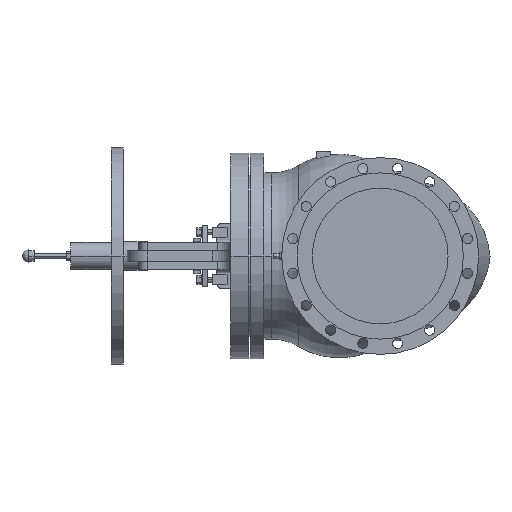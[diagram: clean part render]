
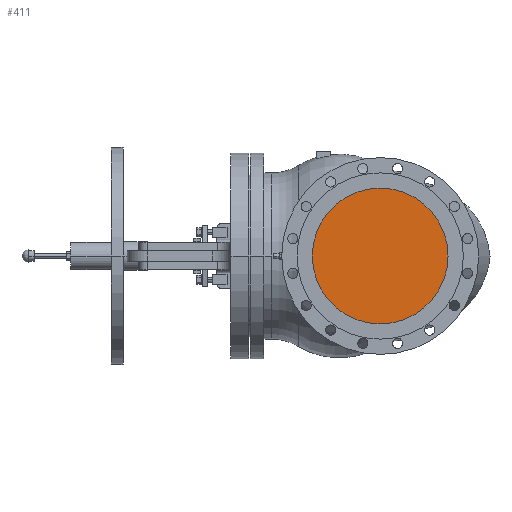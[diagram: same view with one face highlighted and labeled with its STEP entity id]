
A CAD part, left-side view. The second image highlights one B-rep face of the part: STEP entity #411.
In plain terms, the highlighted planar face has unit normal (-1, 0, 0).
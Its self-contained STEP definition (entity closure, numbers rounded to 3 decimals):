
#411 = ADVANCED_FACE( '', ( #1182 ), #1183, .T. );
#1182 = FACE_OUTER_BOUND( '', #2011, .T. );
#1183 = PLANE( '', #2012 );
#2011 = EDGE_LOOP( '', ( #4888, #4889 ) );
#2012 = AXIS2_PLACEMENT_3D( '', #4890, #4891, #4892 );
#4888 = ORIENTED_EDGE( '', *, *, #6048, .T. );
#4889 = ORIENTED_EDGE( '', *, *, #5201, .T. );
#4890 = CARTESIAN_POINT( '', ( 1., 100., 0. ) );
#4891 = DIRECTION( '', ( -1., 0., 0. ) );
#4892 = DIRECTION( '', ( 0., 1., 0. ) );
#5201 = EDGE_CURVE( '', #6259, #6256, #6260, .T. );
#6048 = EDGE_CURVE( '', #6256, #6259, #7668, .T. );
#6256 = VERTEX_POINT( '', #7948 );
#6259 = VERTEX_POINT( '', #7952 );
#6260 = CIRCLE( '', #7953, 200. );
#7668 = CIRCLE( '', #10648, 200. );
#7948 = CARTESIAN_POINT( '', ( 1., 200., 0. ) );
#7952 = CARTESIAN_POINT( '', ( 1., -200., 0. ) );
#7953 = AXIS2_PLACEMENT_3D( '', #10861, #10862, #10863 );
#10648 = AXIS2_PLACEMENT_3D( '', #12314, #12315, #12316 );
#10861 = CARTESIAN_POINT( '', ( 1., 0., 0. ) );
#10862 = DIRECTION( '', ( -1., 0., 0. ) );
#10863 = DIRECTION( '', ( 0., 1., 0. ) );
#12314 = CARTESIAN_POINT( '', ( 1., 0., 0. ) );
#12315 = DIRECTION( '', ( -1., 0., 0. ) );
#12316 = DIRECTION( '', ( 0., 1., 0. ) );
